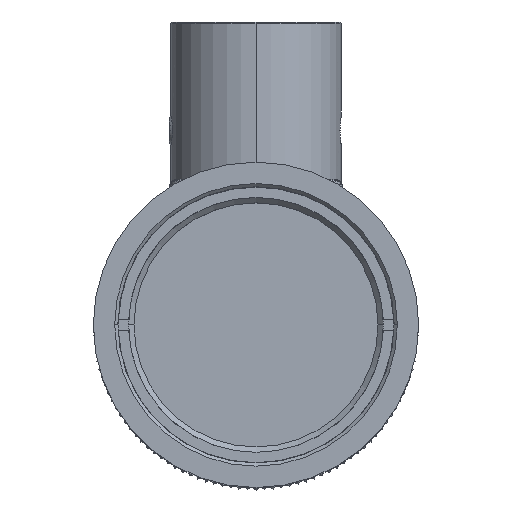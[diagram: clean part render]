
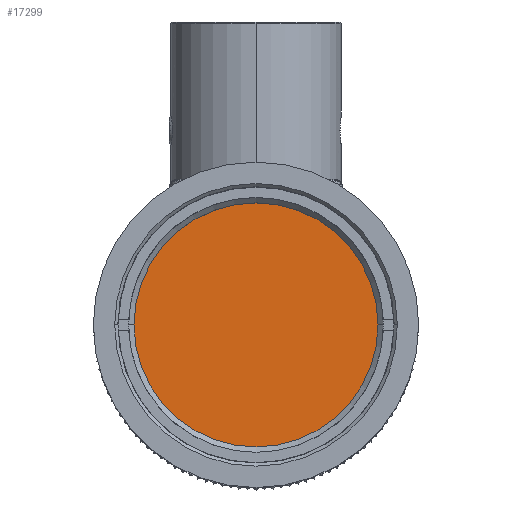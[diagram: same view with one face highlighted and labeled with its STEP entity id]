
A CAD part, top view. The second image highlights one B-rep face of the part: STEP entity #17299.
In plain terms, the highlighted planar face has unit normal (0, 0, 1).
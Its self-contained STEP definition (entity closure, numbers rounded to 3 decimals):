
#3536 = VERTEX_POINT ( 'NONE', #14058 ) ;
#3540 = VERTEX_POINT ( 'NONE', #13961 ) ;
#3770 = EDGE_CURVE ( 'NONE', #3536, #3540, #14660, .T. ) ;
#13961 = CARTESIAN_POINT ( 'NONE',  ( 11.25, 0., 55.702 ) ) ;
#14058 = CARTESIAN_POINT ( 'NONE',  ( -11.25, 0., 55.702 ) ) ;
#14645 = DIRECTION ( 'NONE',  ( 1., 0., 0. ) ) ;
#14646 = DIRECTION ( 'NONE',  ( 0., 0., 1. ) ) ;
#14647 = CARTESIAN_POINT ( 'NONE',  ( 0., 0., 55.702 ) ) ;
#14660 = CIRCLE ( 'NONE', #14667, 11.25 ) ;
#14667 = AXIS2_PLACEMENT_3D ( 'NONE', #14647, #14646, #14645 ) ;
#15142 = AXIS2_PLACEMENT_3D ( 'NONE', #15146, #15145, #15143 ) ;
#15143 = DIRECTION ( 'NONE',  ( -1., 0., 0. ) ) ;
#15145 = DIRECTION ( 'NONE',  ( 0., 0., -1. ) ) ;
#15146 = CARTESIAN_POINT ( 'NONE',  ( 0., 0., 55.702 ) ) ;
#15150 = PLANE ( 'NONE',  #15142 ) ;
#15255 = FACE_OUTER_BOUND ( 'NONE', #17346, .T. ) ;
#15349 = DIRECTION ( 'NONE',  ( 1., 0., 0. ) ) ;
#15350 = AXIS2_PLACEMENT_3D ( 'NONE', #15367, #15365, #15349 ) ;
#15365 = DIRECTION ( 'NONE',  ( 0., 0., 1. ) ) ;
#15367 = CARTESIAN_POINT ( 'NONE',  ( 0., 0., 55.702 ) ) ;
#15391 = CIRCLE ( 'NONE', #15350, 11.25 ) ;
#17299 = ADVANCED_FACE ( 'NONE', ( #15255 ), #15150, .F. ) ;
#17300 = ORIENTED_EDGE ( 'NONE', *, *, #17338, .T. ) ;
#17338 = EDGE_CURVE ( 'NONE', #3540, #3536, #15391, .T. ) ;
#17346 = EDGE_LOOP ( 'NONE', ( #17300, #17529 ) ) ;
#17529 = ORIENTED_EDGE ( 'NONE', *, *, #3770, .T. ) ;
